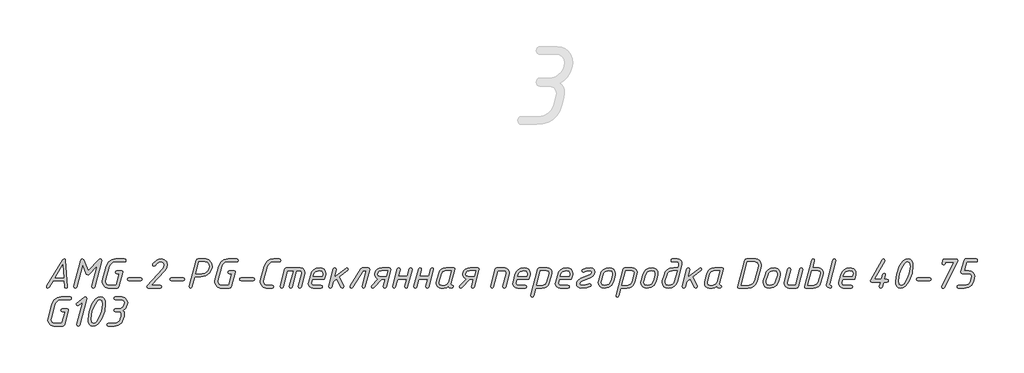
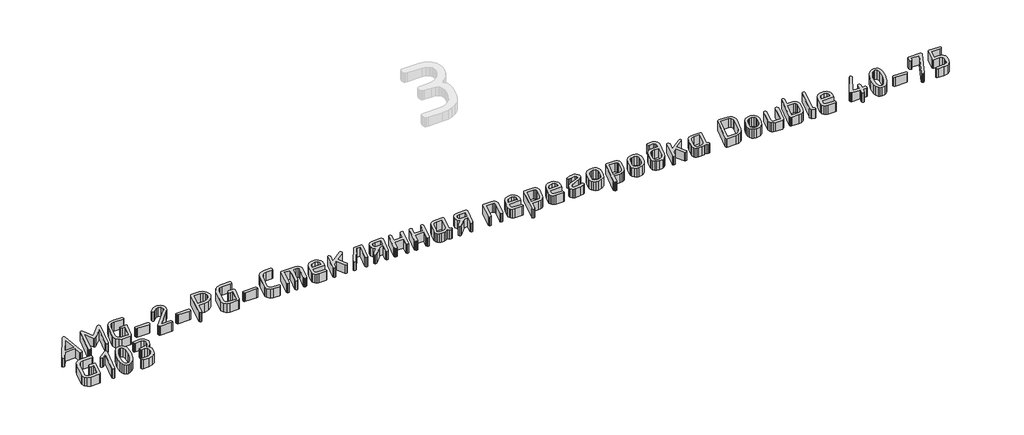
# One storey, part 21 of 22: 1 proxy.
"""IFC4 building model written with IfcOpenShell, lengths in millimetres."""

from ifc_helpers import new_model, si_unit, origin, origin_with_axes, place, context, project, spatial, polyline, outline, extrude, element, save

model = new_model("IFC4")

# Units and contexts
model_context = context("Model", 3, world=origin())
ifc_project = project(units=[si_unit("LENGTHUNIT", "METRE", prefix="MILLI")], contexts=[model_context])

# Site, building, storey
site = spatial("IfcSite", under=ifc_project)
building = spatial("IfcBuilding", under=site)
storey = spatial("IfcBuildingStorey", under=building, Name="Уровень 1", Elevation=0.0)

# Proxy
placement = place(None, origin())
element("IfcBuildingElementProxy", 1, Name="30", ObjectType="30", at=placement, inside=storey, context=model_context, shape_type="SweptSolid", body=[
    extrude(outline(polyline([(-27254.4219264, 304.7886375), (-27310.5539274, 304.7886375), (-27331.3287604, 270.1505985), (-27337.7210168, 266.4350995), (-27343.0345798, 268.6723892), (-27345.1919664, 273.9859523), (-27344.0733215, 277.9811125), (-27261.4534084, 413.7366563), (-27254.9812489, 417.2923489), (-27249.6277342, 415.5544542), (-27247.4703477, 410.3407702), (-27237.0429795, 273.7462427), (-27238.9406806, 268.2628853), (-27244.6337839, 266.4350995), (-27249.9573349, 268.2029579), (-27252.0248303, 273.506533), (-27254.4219264, 304.7886375)]), holes=[polyline([(-27255.5405713, 320.1300527), (-27260.6543764, 386.6095185), (-27301.3251073, 320.1300527), (-27255.5405713, 320.1300527)])]), origin_with_axes(), (0.0, 0.0, 1.0), 50.0),
    extrude(outline(polyline([(-27159.3371135, 386.6494701), (-27189.9000891, 272.0283238), (-27192.4370158, 267.8334055), (-27197.0913775, 266.4350995), (-27202.3649889, 268.6723892), (-27204.6821818, 273.7462427), (-27204.362569, 276.023484), (-27168.0865143, 411.6991246), (-27165.5595755, 415.8940428), (-27160.9351776, 417.2923489), (-27153.9036956, 412.7378663), (-27129.8128796, 355.4472689), (-27073.0816046, 414.8952528), (-27067.7680415, 417.2923489), (-27062.1348656, 415.4345994), (-27060.2571403, 409.8613509), (-27060.49685, 407.7039644), (-27096.732953, 272.0283238), (-27099.3198193, 267.8334055), (-27103.8842898, 266.4350995), (-27109.1778771, 268.6723892), (-27111.5150458, 273.7462427), (-27111.1554814, 276.023484), (-27082.5101827, 383.3334871), (-27127.0961706, 336.8298223), (-27132.4097337, 334.5925326), (-27139.2414576, 339.1070636), (-27159.3371135, 386.6494701)])), origin_with_axes(), (0.0, 0.0, 1.0), 50.0),
    extrude(outline(polyline([(-26942.6795754, 401.9509337), (-26991.3406268, 401.9509337), (-27004.0052846, 399.1643095), (-27014.512556, 390.8044367), (-27020.5452479, 379.4182301), (-27040.7607585, 304.3092182), (-27041.5597906, 298.7159939), (-27036.3860581, 286.4508521), (-27023.5016664, 281.7765147), (-26984.6287576, 281.7765147), (-26968.4883104, 340.5852729), (-26982.2316615, 340.5852729), (-26987.8648374, 342.5029498), (-26989.7425627, 348.2559805), (-26987.8648374, 354.0090112), (-26982.2316615, 355.9266881), (-26956.782491, 355.9266881), (-26952.3478631, 354.5683337), (-26950.8696539, 350.4932702), (-26950.9895087, 348.4557385), (-26971.1251161, 273.9060491), (-26974.6108934, 268.3028369), (-26980.9931618, 266.4350995), (-27027.5767298, 266.4350995), (-27041.7995002, 270.5800782), (-27052.8261424, 283.0150143), (-27057.0210606, 297.8770103), (-27056.2220285, 304.1494118), (-27036.1263727, 379.5780366), (-27026.1784238, 400.3528696), (-27009.5186057, 413.0574791), (-26987.2256117, 417.2923489), (-26942.6795754, 417.2923489), (-26937.0763632, 415.374672), (-26935.2086258, 409.6216413), (-26937.0763632, 403.8686106), (-26942.6795754, 401.9509337)])), origin_with_axes(), (0.0, 0.0, 1.0), 50.0),
    extrude(outline(polyline([(-26858.9809691, 304.7886375), (-26921.0657587, 304.7886375), (-26926.6689709, 306.7063144), (-26928.5367083, 312.4593451), (-26926.6689709, 318.2123758), (-26921.0657587, 320.1300527), (-26858.9809691, 320.1300527), (-26853.3777569, 318.2123758), (-26851.5100195, 312.4593451), (-26853.3777569, 306.7063144), (-26858.9809691, 304.7886375)])), origin_with_axes(), (0.0, 0.0, 1.0), 50.0),
    extrude(outline(polyline([(-26784.9106988, 382.1748907), (-26790.4639715, 379.4581817), (-26795.7575588, 381.7354231), (-26797.9748727, 386.9690829), (-26796.137099, 391.8431784), (-26776.8404752, 410.4206734), (-26764.8749704, 415.57443), (-26751.2714499, 417.2923489), (-26736.3295507, 413.6467652), (-26725.4627149, 402.7100142), (-26721.2677967, 387.5284054), (-26724.6936466, 372.2569055), (-26734.9711962, 357.2850426), (-26803.5281454, 281.7765147), (-26758.5426415, 281.7765147), (-26752.9094656, 279.8588378), (-26751.0317403, 274.1058071), (-26752.9094656, 268.3527764), (-26758.5426415, 266.4350995), (-26820.5874795, 266.4350995), (-26826.1906917, 268.3128248), (-26828.0584291, 273.9460007), (-26826.1407522, 279.0997573), (-26745.7980804, 367.5126527), (-26738.906429, 377.4306379), (-26736.6092119, 386.8891797), (-26741.2935373, 398.1854952), (-26755.3465133, 401.9509337), (-26764.8050551, 399.3640675), (-26775.9215884, 391.6034688), (-26784.9106988, 382.1748907)])), origin_with_axes(), (0.0, 0.0, 1.0), 50.0),
    extrude(outline(polyline([(-26639.0873512, 304.7886375), (-26701.1721409, 304.7886375), (-26706.7753531, 306.7063144), (-26708.6430905, 312.4593451), (-26706.7753531, 318.2123758), (-26701.1721409, 320.1300527), (-26639.0873512, 320.1300527), (-26633.4841391, 318.2123758), (-26631.6164017, 312.4593451), (-26633.4841391, 306.7063144), (-26639.0873512, 304.7886375)])), origin_with_axes(), (0.0, 0.0, 1.0), 50.0),
    extrude(outline(polyline([(-26548.4771177, 325.2438577), (-26579.5195126, 325.2438577), (-26594.1417989, 271.908469), (-26596.738653, 267.8034418), (-26601.3330873, 266.4350995), (-26606.6066988, 268.6723892), (-26608.9238917, 273.7462427), (-26608.6042789, 276.023484), (-26572.9274982, 409.7414961), (-26569.4716846, 415.4046357), (-26563.0195009, 417.2923489), (-26524.1465921, 417.2923489), (-26507.0173427, 412.268435), (-26493.8233261, 397.1966931), (-26488.8293758, 378.8189561), (-26489.7083111, 371.2681033), (-26501.7437312, 346.6379406), (-26522.1090604, 330.837082), (-26548.4771177, 325.2438577)]), holes=[polyline([(-26544.4020543, 340.5852729), (-26527.9519822, 344.4805541), (-26513.5993691, 356.1663977), (-26506.6178267, 367.2230036), (-26504.2906458, 378.8189561), (-26507.2370765, 390.6346424), (-26516.0763685, 398.914612), (-26528.3814619, 401.9509337), (-26559.3839051, 401.9509337), (-26575.5243523, 340.5852729), (-26544.4020543, 340.5852729)])]), origin_with_axes(), (0.0, 0.0, 1.0), 50.0),
    extrude(outline(polyline([(-26362.2627005, 401.9509337), (-26410.9237518, 401.9509337), (-26423.5884096, 399.1643095), (-26434.095681, 390.8044367), (-26440.1283729, 379.4182301), (-26460.3438836, 304.3092182), (-26461.1429156, 298.7159939), (-26455.9691831, 286.4508521), (-26443.0847915, 281.7765147), (-26404.2118826, 281.7765147), (-26388.0714354, 340.5852729), (-26401.8147865, 340.5852729), (-26407.4479624, 342.5029498), (-26409.3256877, 348.2559805), (-26407.4479624, 354.0090112), (-26401.8147865, 355.9266881), (-26376.365616, 355.9266881), (-26371.9309882, 354.5683337), (-26370.4527789, 350.4932702), (-26370.5726337, 348.4557385), (-26390.7082411, 273.9060491), (-26394.1940184, 268.3028369), (-26400.5762868, 266.4350995), (-26447.1598549, 266.4350995), (-26461.3826252, 270.5800782), (-26472.4092674, 283.0150143), (-26476.6041856, 297.8770103), (-26475.8051536, 304.1494118), (-26455.7094977, 379.5780366), (-26445.7615488, 400.3528696), (-26429.1017307, 413.0574791), (-26406.8087368, 417.2923489), (-26362.2627005, 417.2923489), (-26356.6594883, 415.374672), (-26354.7917509, 409.6216413), (-26356.6594883, 403.8686106), (-26362.2627005, 401.9509337)])), origin_with_axes(), (0.0, 0.0, 1.0), 50.0),
    extrude(outline(polyline([(-26278.5640941, 304.7886375), (-26340.6488837, 304.7886375), (-26346.2520959, 306.7063144), (-26348.1198333, 312.4593451), (-26346.2520959, 318.2123758), (-26340.6488837, 320.1300527), (-26278.5640941, 320.1300527), (-26272.9608819, 318.2123758), (-26271.0931445, 312.4593451), (-26272.9608819, 306.7063144), (-26278.5640941, 304.7886375)])), origin_with_axes(), (0.0, 0.0, 1.0), 50.0),
    extrude(outline(polyline([(-26114.0433968, 365.5949758), (-26111.4864942, 369.8498214), (-26106.7722052, 371.2681033), (-26034.8193698, 371.2681033), (-26022.5941796, 368.2617453), (-26014.12444, 359.2426711), (-26011.0881182, 347.3370937), (-26011.8871502, 341.3044018), (-26030.5045968, 271.9883722), (-26033.091463, 267.8234176), (-26037.6559336, 266.4350995), (-26042.9495209, 268.6324376), (-26045.2866896, 273.6663394), (-26044.9271252, 275.9435808), (-26027.4283234, 341.0247405), (-26026.6292914, 346.5380616), (-26029.6756011, 353.5795315), (-26038.81453, 355.9266881), (-26054.3557032, 355.9266881), (-26077.0881648, 271.9883722), (-26079.6750311, 267.8234176), (-26084.2395016, 266.4350995), (-26089.5330889, 268.6324376), (-26091.8702576, 273.6663394), (-26091.5506448, 275.9435808), (-26069.8169733, 355.9266881), (-26100.9792229, 355.9266881), (-26123.6717329, 271.9883722), (-26126.268587, 267.8234176), (-26130.8630212, 266.4350995), (-26136.1366327, 268.6524134), (-26138.4538256, 273.706291), (-26138.1342128, 275.9835324), (-26114.0433968, 365.5949758)])), origin_with_axes(), (0.0, 0.0, 1.0), 50.0),
    extrude(outline(polyline([(-26178.7649921, 281.7765147), (-26173.1318162, 279.8588378), (-26171.2540909, 274.1058071), (-26173.1318162, 268.3527764), (-26178.7649921, 266.4350995), (-26211.804967, 266.4350995), (-26226.1575801, 270.6100419), (-26237.1742344, 283.1348691), (-26241.2492978, 298.0767683), (-26240.4502657, 304.1494118), (-26220.4744647, 379.5780366), (-26213.6527286, 396.0780482), (-26203.2153726, 407.8637708), (-26189.1623966, 414.9352044), (-26171.4938005, 417.2923489), (-26142.6087922, 417.2923489), (-26136.9756163, 415.374672), (-26135.097891, 409.6216413), (-26136.9756163, 403.8686106), (-26142.6087922, 401.9509337), (-26175.568864, 401.9509337), (-26188.113667, 399.1643095), (-26198.7407932, 390.8044367), (-26204.8933399, 379.4182301), (-26224.9889957, 304.3092182), (-26225.7880278, 298.7159939), (-26220.6142953, 286.4508521), (-26207.7299036, 281.7765147), (-26178.7649921, 281.7765147)])), origin_with_axes(), (0.0, 0.0, 1.0), 50.0),
    extrude(outline(polyline([(-25904.2974858, 334.5126294), (-25910.3301778, 312.4593451), (-25972.3750158, 312.4593451), (-25976.370176, 297.1179299), (-25977.169208, 291.5247056), (-25974.1228984, 284.2135624), (-25964.9839694, 281.7765147), (-25928.1885439, 281.7765147), (-25922.555368, 279.8588378), (-25920.6776427, 274.1058071), (-25922.555368, 268.3527764), (-25928.1885439, 266.4350995), (-25968.9791296, 266.4350995), (-25978.0381554, 268.19297), (-25985.7188509, 273.4665814), (-25990.9624987, 281.1772406), (-25992.7103812, 290.2462543), (-25991.9113492, 296.398801), (-25981.9234487, 333.8334522), (-25975.066755, 351.0725685), (-25965.2037032, 362.5986057), (-25951.4553582, 369.1007289), (-25932.9427845, 371.2681033), (-25921.4217413, 369.195614), (-25911.8683144, 362.9781459), (-25905.4411005, 353.7243561), (-25903.2986958, 342.5429014), (-25904.2974858, 334.5126294)]), holes=[polyline([(-25919.8786107, 334.8322422), (-25918.640111, 342.6228046), (-25923.2345452, 352.6007173), (-25937.0178479, 355.9266881), (-25955.9549073, 350.6530766), (-25962.217321, 344.0610623), (-25966.3423239, 334.8322422), (-25968.4198072, 327.8007603), (-25921.7962876, 327.8007603), (-25919.8786107, 334.8322422)])]), origin_with_axes(), (0.0, 0.0, 1.0), 50.0),
    extrude(outline(polyline([(-25845.7284372, 314.7365864), (-25865.824093, 299.2753164), (-25873.0952846, 271.9883722), (-25875.6322114, 267.8234176), (-25880.286573, 266.4350995), (-25885.5601845, 268.6524134), (-25887.8773774, 273.706291), (-25887.5577646, 275.9835324), (-25863.4669485, 365.7148306), (-25860.9400097, 369.8797851), (-25856.3156118, 371.2681033), (-25850.6824359, 369.4203417), (-25848.8047106, 363.8770569), (-25849.0044686, 361.7196704), (-25859.3519335, 323.0465196), (-25798.66545, 368.7112008), (-25794.1509189, 371.2681033), (-25788.8972832, 368.990862), (-25786.5201629, 363.8770569), (-25789.5964363, 357.7644618), (-25833.5831502, 324.0852613), (-25811.410011, 277.222032), (-25810.610979, 274.0259039), (-25812.8882203, 268.7123408), (-25818.241735, 266.4350995), (-25824.9136525, 270.7498725), (-25845.7284372, 314.7365864)])), origin_with_axes(), (0.0, 0.0, 1.0), 50.0),
    extrude(outline(polyline([(-25683.9644004, 371.2681033), (-25678.3312245, 369.4203417), (-25676.4534992, 363.8770569), (-25676.6932088, 361.7196704), (-25700.9038797, 271.9883722), (-25703.4907459, 267.8234176), (-25708.0552164, 266.4350995), (-25713.3488037, 268.6324376), (-25715.6859724, 273.6663394), (-25715.326408, 275.9435808), (-25693.7525429, 355.9266881), (-25710.7719254, 355.9266881), (-25763.8676045, 269.9508405), (-25769.7404901, 266.4350995), (-25775.673303, 268.2229337), (-25777.7308105, 273.5864362), (-25776.572214, 277.7813545), (-25721.4789547, 367.6325075), (-25714.9668436, 371.2681033), (-25683.9644004, 371.2681033)])), origin_with_axes(), (0.0, 0.0, 1.0), 50.0),
    extrude(outline(polyline([(-25614.129, 312.4593451), (-25655.0394405, 268.7522924), (-25660.3929552, 266.4350995), (-25665.9861795, 268.292849), (-25667.9837596, 273.8660975), (-25665.8263731, 279.4593217), (-25634.0248978, 313.4980867), (-25646.2301122, 321.9678264), (-25650.8445223, 335.8709839), (-25650.165345, 341.8637242), (-25644.6220602, 355.5022024), (-25636.8614615, 364.5362584), (-25625.97465, 369.5851421), (-25611.0527266, 371.2681033), (-25574.2573011, 371.2681033), (-25568.9637138, 369.1107168), (-25566.6265451, 363.9969117), (-25566.9861095, 361.7196704), (-25591.1568288, 271.9883722), (-25593.7536829, 267.8234176), (-25598.3481171, 266.4350995), (-25603.9513293, 268.3228127), (-25605.8190667, 273.9859523), (-25605.6193087, 276.1832904), (-25596.0708758, 312.4593451), (-25614.129, 312.4593451)]), holes=[polyline([(-25623.1181104, 327.8007603), (-25592.0757156, 327.8007603), (-25583.8856372, 355.9266881), (-25615.0478868, 355.9266881), (-25627.5427504, 352.4109471), (-25634.8239298, 341.8637242), (-25635.5031071, 336.7499191), (-25632.4068579, 330.03805), (-25623.1181104, 327.8007603)])]), origin_with_axes(), (0.0, 0.0, 1.0), 50.0),
    extrude(outline(polyline([(-25486.1240669, 312.4593451), (-25532.7076349, 312.4593451), (-25543.2548579, 272.1481786), (-25545.8217483, 267.8633692), (-25550.5660011, 266.4350995), (-25555.8196367, 268.6524134), (-25558.1568055, 273.706291), (-25557.8371926, 275.9835324), (-25533.7463766, 365.7148306), (-25531.2094499, 369.8797851), (-25526.5550882, 371.2681033), (-25521.2415251, 369.19062), (-25518.9642838, 364.1167665), (-25519.1640418, 362.0392832), (-25528.7124747, 327.8007603), (-25482.0090519, 327.8007603), (-25471.4618289, 365.874637), (-25468.9348901, 369.9197368), (-25464.3104922, 371.2681033), (-25458.6773163, 369.4203417), (-25456.799591, 363.8770569), (-25457.0393006, 361.7196704), (-25481.1301167, 271.9883722), (-25483.6570555, 267.8234176), (-25488.2814534, 266.4350995), (-25493.5550649, 268.692365), (-25495.8722578, 273.8660975), (-25495.552645, 276.1832904), (-25486.1240669, 312.4593451)])), origin_with_axes(), (0.0, 0.0, 1.0), 50.0),
    extrude(outline(polyline([(-25376.177258, 312.4593451), (-25422.760826, 312.4593451), (-25433.308049, 272.1481786), (-25435.8749394, 267.8633692), (-25440.6191921, 266.4350995), (-25445.8728278, 268.6524134), (-25448.2099965, 273.706291), (-25447.8903837, 275.9835324), (-25423.7995677, 365.7148306), (-25421.2626409, 369.8797851), (-25416.6082793, 371.2681033), (-25411.2947162, 369.19062), (-25409.0174749, 364.1167665), (-25409.2172329, 362.0392832), (-25418.7656658, 327.8007603), (-25372.062243, 327.8007603), (-25361.51502, 365.874637), (-25358.9880812, 369.9197368), (-25354.3636833, 371.2681033), (-25348.7305074, 369.4203417), (-25346.8527821, 363.8770569), (-25347.0924917, 361.7196704), (-25371.1833077, 271.9883722), (-25373.7102466, 267.8234176), (-25378.3346445, 266.4350995), (-25383.608256, 268.692365), (-25385.9254489, 273.8660975), (-25385.6058361, 276.1832904), (-25376.177258, 312.4593451)])), origin_with_axes(), (0.0, 0.0, 1.0), 50.0),
    extrude(outline(polyline([(-25309.2982761, 266.4350995), (-25318.3573019, 268.1630063), (-25326.0379974, 273.3467266), (-25331.2816452, 280.9774826), (-25333.0295278, 290.0464963), (-25332.2304957, 296.398801), (-25320.2050635, 341.3044018), (-25314.6418029, 355.2075593), (-25306.5815672, 364.476331), (-25295.7147314, 369.5701602), (-25281.0924451, 371.2681033), (-25242.2594878, 371.2681033), (-25237.3654166, 369.1306926), (-25236.4265539, 363.7971537), (-25256.6820162, 289.2474643), (-25257.001629, 287.2099326), (-25255.5034439, 283.1348691), (-25251.0088887, 281.7765147), (-25245.8051925, 279.8588378), (-25245.2159064, 274.1058071), (-25248.5518652, 268.3527764), (-25254.9640973, 266.4350995), (-25265.0219131, 268.6124618), (-25270.4253673, 275.1445487), (-25279.5742842, 268.6124618), (-25293.8370061, 266.4350995), (-25309.2982761, 266.4350995)]), holes=[polyline([(-25305.3031159, 281.7765147), (-25289.7619427, 281.7765147), (-25277.7564863, 286.3309973), (-25270.0658029, 296.598559), (-25254.0452104, 355.9266881), (-25285.0876053, 355.9266881), (-25297.8321663, 352.221177), (-25304.7437935, 341.1046438), (-25316.6893225, 296.598559), (-25317.4883545, 291.3249476), (-25314.4420449, 284.1636229), (-25305.3031159, 281.7765147)])]), origin_with_axes(), (0.0, 0.0, 1.0), 50.0),
    extrude(outline(polyline([(-25159.0003491, 312.4593451), (-25199.9107896, 268.7522924), (-25205.2643043, 266.4350995), (-25210.8575286, 268.292849), (-25212.8551087, 273.8660975), (-25210.6977222, 279.4593217), (-25178.8962469, 313.4980867), (-25191.1014614, 321.9678264), (-25195.7158714, 335.8709839), (-25195.0366942, 341.8637242), (-25189.4934094, 355.5022024), (-25181.7328107, 364.5362584), (-25170.8459991, 369.5851421), (-25155.9240757, 371.2681033), (-25119.1286502, 371.2681033), (-25113.835063, 369.1107168), (-25111.4978942, 363.9969117), (-25111.8574587, 361.7196704), (-25136.0281779, 271.9883722), (-25138.625032, 267.8234176), (-25143.2194663, 266.4350995), (-25148.8226785, 268.3228127), (-25150.6904159, 273.9859523), (-25150.4906579, 276.1832904), (-25140.942225, 312.4593451), (-25159.0003491, 312.4593451)]), holes=[polyline([(-25167.9894596, 327.8007603), (-25136.9470648, 327.8007603), (-25128.7569863, 355.9266881), (-25159.919236, 355.9266881), (-25172.4140995, 352.4109471), (-25179.695279, 341.8637242), (-25180.3744562, 336.7499191), (-25177.2782071, 330.03805), (-25167.9894596, 327.8007603)])]), origin_with_axes(), (0.0, 0.0, 1.0), 50.0),
    extrude(outline(polyline([(-25027.3598203, 365.5949758), (-25024.8029177, 369.8498214), (-25020.0886287, 371.2681033), (-24979.1781882, 371.2681033), (-24969.8145314, 369.5801481), (-24962.1787815, 364.5162826), (-24957.0999341, 356.8755387), (-24955.4069849, 347.4569485), (-24956.206017, 341.3044018), (-24974.8634151, 271.9883722), (-24977.4303056, 267.8234176), (-24982.0147519, 266.4350995), (-24987.2883634, 268.6324376), (-24989.6055563, 273.6663394), (-24989.2859435, 275.9435808), (-24971.7871418, 341.0247405), (-24970.9881097, 346.4182068), (-24974.0244315, 353.5495678), (-24983.1333968, 355.9266881), (-25014.2956464, 355.9266881), (-25036.9881564, 271.9883722), (-25039.5850105, 267.8234176), (-25044.1794447, 266.4350995), (-25049.4530562, 268.6524134), (-25051.7702491, 273.706291), (-25051.4506363, 275.9835324), (-25027.3598203, 365.5949758)])), origin_with_axes(), (0.0, 0.0, 1.0), 50.0),
    extrude(outline(polyline([(-24848.2967398, 334.5126294), (-24854.3294317, 312.4593451), (-24916.3742697, 312.4593451), (-24920.3694299, 297.1179299), (-24921.1684619, 291.5247056), (-24918.1221523, 284.2135624), (-24908.9832233, 281.7765147), (-24872.1877978, 281.7765147), (-24866.5546219, 279.8588378), (-24864.6768966, 274.1058071), (-24866.5546219, 268.3527764), (-24872.1877978, 266.4350995), (-24912.9783835, 266.4350995), (-24922.0374093, 268.19297), (-24929.7181048, 273.4665814), (-24934.9617526, 281.1772406), (-24936.7096351, 290.2462543), (-24935.9106031, 296.398801), (-24925.9227026, 333.8334522), (-24919.0660089, 351.0725685), (-24909.2029571, 362.5986057), (-24895.4546121, 369.1007289), (-24876.9420384, 371.2681033), (-24865.4209952, 369.195614), (-24855.8675683, 362.9781459), (-24849.4403544, 353.7243561), (-24847.2979497, 342.5429014), (-24848.2967398, 334.5126294)]), holes=[polyline([(-24863.8778646, 334.8322422), (-24862.6393649, 342.6228046), (-24867.2337991, 352.6007173), (-24881.0171019, 355.9266881), (-24899.9541612, 350.6530766), (-24906.2165749, 344.0610623), (-24910.3415778, 334.8322422), (-24912.4190611, 327.8007603), (-24865.7955415, 327.8007603), (-24863.8778646, 334.8322422)])]), origin_with_axes(), (0.0, 0.0, 1.0), 50.0),
    extrude(outline(polyline([(-24807.4662024, 365.5550242), (-24804.9092999, 369.8398335), (-24800.1950109, 371.2681033), (-24759.2845703, 371.2681033), (-24750.1206716, 369.5252147), (-24742.44497, 364.2965488), (-24737.2462678, 356.6008714), (-24735.5133671, 347.4569485), (-24736.3123991, 341.3044018), (-24748.377783, 296.398801), (-24753.9260617, 282.5655588), (-24761.9413519, 273.3467266), (-24772.972988, 268.1630063), (-24787.5703046, 266.4350995), (-24818.5727478, 266.4350995), (-24829.1599224, 226.123933), (-24831.6868612, 221.8391237), (-24836.3112591, 220.4108539), (-24841.6048464, 222.6481436), (-24843.9420151, 227.7219971), (-24843.5824507, 229.9992384), (-24807.4662024, 365.5550242)]), holes=[polyline([(-24794.4020286, 355.9266881), (-24814.6175392, 281.7765147), (-24783.4952412, 281.7765147), (-24770.7207164, 285.4820258), (-24763.7991014, 296.598559), (-24751.8935239, 341.1046438), (-24751.0944919, 346.49811), (-24754.1308137, 353.5695436), (-24763.2397789, 355.9266881), (-24794.4020286, 355.9266881)])]), origin_with_axes(), (0.0, 0.0, 1.0), 50.0),
    extrude(outline(polyline([(-24628.4031219, 334.5126294), (-24634.4358138, 312.4593451), (-24696.4806519, 312.4593451), (-24700.4758121, 297.1179299), (-24701.2748441, 291.5247056), (-24698.2285345, 284.2135624), (-24689.0896055, 281.7765147), (-24652.29418, 281.7765147), (-24646.6610041, 279.8588378), (-24644.7832788, 274.1058071), (-24646.6610041, 268.3527764), (-24652.29418, 266.4350995), (-24693.0847657, 266.4350995), (-24702.1437915, 268.19297), (-24709.824487, 273.4665814), (-24715.0681347, 281.1772406), (-24716.8160173, 290.2462543), (-24716.0169853, 296.398801), (-24706.0290848, 333.8334522), (-24699.1723911, 351.0725685), (-24689.3093393, 362.5986057), (-24675.5609942, 369.1007289), (-24657.0484206, 371.2681033), (-24645.5273774, 369.195614), (-24635.9739505, 362.9781459), (-24629.5467365, 353.7243561), (-24627.4043319, 342.5429014), (-24628.4031219, 334.5126294)]), holes=[polyline([(-24643.9842467, 334.8322422), (-24642.7457471, 342.6228046), (-24647.3401813, 352.6007173), (-24661.123484, 355.9266881), (-24680.0605434, 350.6530766), (-24686.322957, 344.0610623), (-24690.4479599, 334.8322422), (-24692.5254433, 327.8007603), (-24645.9019236, 327.8007603), (-24643.9842467, 334.8322422)])]), origin_with_axes(), (0.0, 0.0, 1.0), 50.0),
    extrude(outline(polyline([(-24555.8510125, 269.3515664), (-24586.9733106, 266.4350995), (-24594.9037036, 268.0331636), (-24601.5955969, 272.8273558), (-24606.1500796, 279.738983), (-24607.6682404, 287.6893518), (-24605.9702974, 296.8482566), (-24600.8764681, 305.6276211), (-24585.2953433, 317.2934889), (-24539.9502749, 335.0320002), (-24532.6990591, 340.2257085), (-24530.2819872, 348.3758353), (-24532.5891922, 354.0389749), (-24539.5108073, 355.9266881), (-24557.4191129, 354.3086482), (-24570.9527181, 349.4545286), (-24574.5883139, 348.4157869), (-24579.8819012, 350.6930283), (-24582.0992151, 355.9266881), (-24578.3437645, 362.5586541), (-24560.3056162, 369.090741), (-24535.5156471, 371.2681033), (-24525.4078918, 368.5014549), (-24517.7771358, 360.2015095), (-24514.8207172, 349.6942382), (-24517.2677528, 339.176979), (-24524.6088597, 328.8794535), (-24536.9938564, 320.6494235), (-24582.3389247, 303.030767), (-24589.6500679, 297.7471676), (-24592.0871156, 289.5670771), (-24589.8198622, 283.7241553), (-24583.018102, 281.7765147), (-24561.424261, 283.5144094), (-24541.8679518, 288.7280934), (-24539.1512429, 289.2874159), (-24533.518067, 287.4096906), (-24531.6403417, 281.7765147), (-24534.0873773, 276.522879), (-24541.4284842, 272.5876462), (-24555.8510125, 269.3515664)])), origin_with_axes(), (0.0, 0.0, 1.0), 50.0),
    extrude(outline(polyline([(-24494.0858357, 303.8697506), (-24486.1354669, 333.8334522), (-24479.2787732, 351.0725685), (-24469.4157215, 362.5986057), (-24455.6673764, 369.1007289), (-24437.1548028, 371.2681033), (-24425.6337595, 369.1556624), (-24416.0803327, 362.8183395), (-24409.6531187, 353.3847674), (-24407.510714, 341.983579), (-24408.5095041, 333.8334522), (-24416.4598729, 303.8697506), (-24426.3678702, 282.3358371), (-24441.9889466, 270.4102839), (-24465.440537, 266.4350995), (-24476.9665742, 268.5475404), (-24486.5349829, 274.8848633), (-24492.9771788, 284.3184354), (-24495.1245774, 295.7196238), (-24494.0858357, 303.8697506)]), holes=[polyline([(-24432.0409977, 304.029557), (-24424.0906289, 333.6736458), (-24422.8521292, 341.983579), (-24427.4465635, 352.4409108), (-24441.2298662, 355.9266881), (-24451.8120468, 354.535873), (-24460.226853, 350.3634275), (-24466.4742848, 343.4093518), (-24470.5543421, 333.6736458), (-24478.6245657, 304.029557), (-24479.903017, 295.7196238), (-24475.2985949, 285.262292), (-24461.4853284, 281.7765147), (-24450.8656932, 283.1673298), (-24442.4184264, 287.3397753), (-24436.1435279, 294.293851), (-24432.0409977, 304.029557)])]), origin_with_axes(), (0.0, 0.0, 1.0), 50.0),
    extrude(outline(polyline([(-24367.6789668, 365.5550242), (-24365.1220642, 369.8398335), (-24360.4077752, 371.2681033), (-24319.4973347, 371.2681033), (-24310.3334359, 369.5252147), (-24302.6577344, 364.2965488), (-24297.4590322, 356.6008714), (-24295.7261314, 347.4569485), (-24296.5251635, 341.3044018), (-24308.5905473, 296.398801), (-24314.138826, 282.5655588), (-24322.1541162, 273.3467266), (-24333.1857523, 268.1630063), (-24347.7830689, 266.4350995), (-24378.7855121, 266.4350995), (-24389.3726867, 226.123933), (-24391.8996255, 221.8391237), (-24396.5240235, 220.4108539), (-24401.8176107, 222.6481436), (-24404.1547795, 227.7219971), (-24403.795215, 229.9992384), (-24367.6789668, 365.5550242)]), holes=[polyline([(-24354.6147929, 355.9266881), (-24374.8303035, 281.7765147), (-24343.7080055, 281.7765147), (-24330.9334808, 285.4820258), (-24324.0118657, 296.598559), (-24312.1062883, 341.1046438), (-24311.3072562, 346.49811), (-24314.343578, 353.5695436), (-24323.4525433, 355.9266881), (-24354.6147929, 355.9266881)])]), origin_with_axes(), (0.0, 0.0, 1.0), 50.0),
    extrude(outline(polyline([(-24274.1922179, 303.8697506), (-24266.2418491, 333.8334522), (-24259.3851554, 351.0725685), (-24249.5221036, 362.5986057), (-24235.7737586, 369.1007289), (-24217.2611849, 371.2681033), (-24205.7401417, 369.1556624), (-24196.1867149, 362.8183395), (-24189.7595009, 353.3847674), (-24187.6170962, 341.983579), (-24188.6158863, 333.8334522), (-24196.5662551, 303.8697506), (-24206.4742524, 282.3358371), (-24222.0953288, 270.4102839), (-24245.5469192, 266.4350995), (-24257.0729564, 268.5475404), (-24266.6413651, 274.8848633), (-24273.0835609, 284.3184354), (-24275.2309596, 295.7196238), (-24274.1922179, 303.8697506)]), holes=[polyline([(-24212.1473799, 304.029557), (-24204.1970111, 333.6736458), (-24202.9585114, 341.983579), (-24207.5529456, 352.4409108), (-24221.3362484, 355.9266881), (-24231.918429, 354.535873), (-24240.3332351, 350.3634275), (-24246.5806669, 343.4093518), (-24250.6607243, 333.6736458), (-24258.7309479, 304.029557), (-24260.0093992, 295.7196238), (-24255.404977, 285.262292), (-24241.5917106, 281.7765147), (-24230.9720754, 283.1673298), (-24222.5248085, 287.3397753), (-24216.24991, 294.293851), (-24212.1473799, 304.029557)])]), origin_with_axes(), (0.0, 0.0, 1.0), 50.0),
    extrude(outline(polyline([(-24064.6061134, 387.1288893), (-24086.6194462, 304.1494118), (-24093.6059826, 286.7255194), (-24103.6188528, 275.1245729), (-24117.3771858, 268.6074678), (-24135.6001103, 266.4350995), (-24147.1261475, 268.5475404), (-24156.6945562, 274.8848633), (-24163.136752, 284.3184354), (-24165.2841506, 295.7196238), (-24164.245409, 303.8697506), (-24156.2950402, 333.8334522), (-24149.4383465, 351.0725685), (-24139.5752947, 362.5986057), (-24125.8269496, 369.1007289), (-24107.314376, 371.2681033), (-24084.022592, 371.2681033), (-24080.0274318, 386.6095185), (-24079.2683514, 392.2027428), (-24082.3346368, 399.513886), (-24091.5334932, 401.9509337), (-24112.7877455, 401.9509337), (-24118.3909577, 403.8686106), (-24120.2586951, 409.6216413), (-24118.3909577, 415.374672), (-24112.7877455, 417.2923489), (-24087.538333, 417.2923489), (-24078.404398, 415.5344784), (-24070.7386843, 410.2608669), (-24065.5399821, 402.5002682), (-24063.8070814, 393.2814361), (-24064.6061134, 387.1288893)]), holes=[polyline([(-24102.200571, 304.029557), (-24088.0976554, 355.9266881), (-24111.3894394, 355.9266881), (-24121.97162, 354.535873), (-24130.3864262, 350.3634275), (-24136.633858, 343.4093518), (-24140.7139154, 333.6736458), (-24148.784139, 304.029557), (-24150.0625903, 295.7196238), (-24145.4581681, 285.262292), (-24131.6449017, 281.7765147), (-24121.0252665, 283.1673298), (-24112.5779996, 287.3397753), (-24106.3031011, 294.293851), (-24102.200571, 304.029557)])]), origin_with_axes(), (0.0, 0.0, 1.0), 50.0),
    extrude(outline(polyline([(-24020.1000287, 314.7365864), (-24040.1956845, 299.2753164), (-24047.4668761, 271.9883722), (-24050.0038029, 267.8234176), (-24054.6581645, 266.4350995), (-24059.931776, 268.6524134), (-24062.2489689, 273.706291), (-24061.9293561, 275.9835324), (-24037.83854, 365.7148306), (-24035.3116012, 369.8797851), (-24030.6872032, 371.2681033), (-24025.0540274, 369.4203417), (-24023.1763021, 363.8770569), (-24023.3760601, 361.7196704), (-24033.723525, 323.0465196), (-23973.0370415, 368.7112008), (-23968.5225104, 371.2681033), (-23963.2688747, 368.990862), (-23960.8917544, 363.8770569), (-23963.9680278, 357.7644618), (-24007.9547417, 324.0852613), (-23985.7816025, 277.222032), (-23984.9825705, 274.0259039), (-23987.2598118, 268.7123408), (-23992.6133265, 266.4350995), (-23999.285244, 270.7498725), (-24020.1000287, 314.7365864)])), origin_with_axes(), (0.0, 0.0, 1.0), 50.0),
    extrude(outline(polyline([(-23923.4571033, 266.4350995), (-23932.516129, 268.1630063), (-23940.1968245, 273.3467266), (-23945.4404723, 280.9774826), (-23947.1883549, 290.0464963), (-23946.3893229, 296.398801), (-23934.3638906, 341.3044018), (-23928.8006301, 355.2075593), (-23920.7403943, 364.476331), (-23909.8735586, 369.5701602), (-23895.2512722, 371.2681033), (-23856.418315, 371.2681033), (-23851.5242437, 369.1306926), (-23850.5853811, 363.7971537), (-23870.8408433, 289.2474643), (-23871.1604562, 287.2099326), (-23869.6622711, 283.1348691), (-23865.1677158, 281.7765147), (-23859.9640197, 279.8588378), (-23859.3747335, 274.1058071), (-23862.7106923, 268.3527764), (-23869.1229244, 266.4350995), (-23879.1807403, 268.6124618), (-23884.5841945, 275.1445487), (-23893.7331113, 268.6124618), (-23907.9958333, 266.4350995), (-23923.4571033, 266.4350995)]), holes=[polyline([(-23919.4619431, 281.7765147), (-23903.9207699, 281.7765147), (-23891.9153134, 286.3309973), (-23884.22463, 296.598559), (-23868.2040376, 355.9266881), (-23899.2464324, 355.9266881), (-23911.9909935, 352.221177), (-23918.9026206, 341.1046438), (-23930.8481497, 296.598559), (-23931.6471817, 291.3249476), (-23928.600872, 284.1636229), (-23919.4619431, 281.7765147)])]), origin_with_axes(), (0.0, 0.0, 1.0), 50.0),
    extrude(outline(polyline([(-23739.8794917, 409.7414961), (-23736.4236782, 415.4046357), (-23729.9714944, 417.2923489), (-23683.3879264, 417.2923489), (-23672.3762661, 414.8053617), (-23662.7529239, 407.3444), (-23656.0560366, 396.9170319), (-23653.8237409, 385.5308253), (-23654.6227729, 379.5780366), (-23674.7583803, 304.1494118), (-23681.6100801, 287.6494002), (-23692.057424, 275.8636776), (-23706.1004122, 268.792244), (-23723.7390445, 266.4350995), (-23770.3226125, 266.4350995), (-23775.3165628, 268.6723892), (-23776.1155948, 273.9859523), (-23739.8794917, 409.7414961)]), holes=[polyline([(-23726.3358986, 401.9509337), (-23758.4969383, 281.7765147), (-23719.7438843, 281.7765147), (-23710.3502638, 283.4145304), (-23701.5059779, 288.3285774), (-23694.4195625, 295.599769), (-23690.2995536, 304.3092182), (-23670.2038977, 379.4182301), (-23669.4048657, 385.0114544), (-23674.5785981, 397.2765963), (-23687.4629898, 401.9509337), (-23726.3358986, 401.9509337)])]), origin_with_axes(), (0.0, 0.0, 1.0), 50.0),
    extrude(outline(polyline([(-23642.6372923, 303.8697506), (-23634.6869235, 333.8334522), (-23627.8302298, 351.0725685), (-23617.967178, 362.5986057), (-23604.2188329, 369.1007289), (-23585.7062593, 371.2681033), (-23568.8566711, 366.783536), (-23558.3394119, 353.329834), (-23556.0621706, 341.983579), (-23557.0609606, 333.8334522), (-23565.0113294, 303.8697506), (-23574.9193268, 282.2858976), (-23590.5004516, 270.1905501), (-23613.9919936, 266.4350995), (-23625.5180308, 268.5475404), (-23635.0864395, 274.8848633), (-23641.5286353, 284.3184354), (-23643.6760339, 295.7196238), (-23642.6372923, 303.8697506)]), holes=[polyline([(-23580.5924543, 304.029557), (-23572.6420854, 333.6736458), (-23571.4035858, 341.983579), (-23575.99802, 352.4409108), (-23589.7813227, 355.9266881), (-23600.3635033, 354.535873), (-23608.7783095, 350.3634275), (-23615.0257413, 343.4093518), (-23619.1057987, 333.6736458), (-23627.1760223, 304.029557), (-23628.4544735, 295.7196238), (-23623.8500514, 285.262292), (-23610.036785, 281.7765147), (-23599.4171498, 283.1673298), (-23590.9698829, 287.3397753), (-23584.6949844, 294.293851), (-23580.5924543, 304.029557)])]), origin_with_axes(), (0.0, 0.0, 1.0), 50.0),
    extrude(outline(polyline([(-23454.0657305, 365.7148306), (-23451.5387916, 369.8797851), (-23446.9143937, 371.2681033), (-23441.2812178, 369.4203417), (-23439.4034925, 363.8770569), (-23439.6432021, 361.7196704), (-23463.3744538, 273.9060491), (-23466.8402552, 268.3028369), (-23473.1625963, 266.4350995), (-23511.9156503, 266.4350995), (-23520.9746761, 268.19297), (-23528.6553716, 273.4665814), (-23533.8990193, 281.1772406), (-23535.6469019, 290.2462543), (-23534.8478699, 296.398801), (-23516.3502781, 365.7148306), (-23513.7933756, 369.8797851), (-23509.0790865, 371.2681033), (-23503.4459106, 369.4303296), (-23501.5681853, 363.9170085), (-23501.7679434, 361.759622), (-23519.3066967, 296.6784622), (-23520.0657771, 291.284996), (-23517.0294553, 284.153635), (-23507.9204901, 281.7765147), (-23476.7981921, 281.7765147), (-23454.0657305, 365.7148306)])), origin_with_axes(), (0.0, 0.0, 1.0), 50.0),
    extrude(outline(polyline([(-23423.1032389, 266.4350995), (-23428.3568745, 268.7123408), (-23430.5741885, 273.9859523), (-23430.3744304, 275.9036292), (-23394.0983758, 411.6991246), (-23391.5714369, 415.8940428), (-23386.947039, 417.2923489), (-23381.3138631, 415.4046357), (-23379.4361378, 409.7414961), (-23379.6758474, 407.544158), (-23389.1044255, 371.2681033), (-23358.1019823, 371.2681033), (-23348.9380836, 369.5252147), (-23341.262382, 364.2965488), (-23336.0636798, 356.6008714), (-23334.330779, 347.4569485), (-23335.1298111, 341.3044018), (-23347.2750981, 296.398801), (-23352.8483466, 282.4407101), (-23360.6988364, 273.2468476), (-23371.585648, 268.1380365), (-23386.2678617, 266.4350995), (-23423.1032389, 266.4350995)]), holes=[polyline([(-23362.0571909, 355.9266881), (-23393.2194405, 355.9266881), (-23413.3150964, 281.7765147), (-23382.1927983, 281.7765147), (-23369.5680921, 285.4820258), (-23362.6165133, 296.598559), (-23350.5910811, 341.1046438), (-23349.7920491, 346.49811), (-23352.8583345, 353.5695436), (-23362.0571909, 355.9266881)])]), origin_with_axes(), (0.0, 0.0, 1.0), 50.0),
    extrude(outline(polyline([(-23297.6951599, 281.5368051), (-23292.0619841, 279.6490919), (-23290.1842588, 273.9859523), (-23292.0619841, 268.3228127), (-23297.6951599, 266.4350995), (-23311.7181723, 271.6288077), (-23316.1827638, 277.4417658), (-23317.670961, 284.4932236), (-23316.9917837, 289.0477062), (-23284.2714216, 411.6991246), (-23281.7145191, 415.8940428), (-23277.0002301, 417.2923489), (-23271.3670542, 415.4345994), (-23269.4893289, 409.8613509), (-23269.7290385, 407.7039644), (-23301.4506105, 289.0477062), (-23302.009933, 285.6518201), (-23297.6951599, 281.5368051)])), origin_with_axes(), (0.0, 0.0, 1.0), 50.0),
    extrude(outline(polyline([(-23165.8548731, 334.5126294), (-23171.887565, 312.4593451), (-23233.932403, 312.4593451), (-23237.9275632, 297.1179299), (-23238.7265953, 291.5247056), (-23235.6802856, 284.2135624), (-23226.5413566, 281.7765147), (-23189.7459311, 281.7765147), (-23184.1127552, 279.8588378), (-23182.2350299, 274.1058071), (-23184.1127552, 268.3527764), (-23189.7459311, 266.4350995), (-23230.5365169, 266.4350995), (-23239.5955426, 268.19297), (-23247.2762381, 273.4665814), (-23252.5198859, 281.1772406), (-23254.2677685, 290.2462543), (-23253.4687364, 296.398801), (-23243.4808359, 333.8334522), (-23236.6241422, 351.122508), (-23226.7610905, 362.6385573), (-23213.0127454, 369.1107168), (-23194.5001718, 371.2681033), (-23177.6505836, 366.8734271), (-23167.1333244, 353.6893984), (-23164.856083, 342.5429014), (-23165.8548731, 334.5126294)]), holes=[polyline([(-23181.4359979, 334.8322422), (-23180.1974982, 342.6228046), (-23184.7919325, 352.6007173), (-23198.5752352, 355.9266881), (-23217.5122946, 350.6530766), (-23223.7747082, 344.0610623), (-23227.8997111, 334.8322422), (-23229.9771944, 327.8007603), (-23183.3536748, 327.8007603), (-23181.4359979, 334.8322422)])]), origin_with_axes(), (0.0, 0.0, 1.0), 50.0),
    extrude(outline(polyline([(-23018.4334614, 312.4593451), (-23005.0097231, 312.4593451), (-22999.3765472, 310.5416682), (-22997.4988219, 304.7886375), (-22999.3765472, 299.0356068), (-23005.0097231, 297.1179299), (-23022.38867, 297.1179299), (-23028.8608296, 272.1481786), (-23031.3977563, 267.8633692), (-23036.0521179, 266.4350995), (-23041.8351123, 268.3827401), (-23043.7627771, 274.2256619), (-23043.5230675, 276.0634356), (-23037.9697948, 297.1179299), (-23082.635686, 297.1179299), (-23087.949249, 299.3352438), (-23090.1066356, 304.6288311), (-23089.1078455, 308.3842817), (-23029.8995712, 413.5368983), (-23023.4274117, 417.2923489), (-23017.7043447, 415.4445873), (-23015.7966557, 409.9013025), (-23016.8353973, 406.1858035), (-23069.7712701, 312.4593451), (-23033.9746346, 312.4593451), (-23027.3826203, 337.0295803), (-23024.8556815, 341.1046438), (-23020.2312835, 342.4629982), (-23014.5381802, 340.6452003), (-23012.6404791, 335.1918066), (-23012.8402371, 333.1542749), (-23018.4334614, 312.4593451)])), origin_with_axes(), (0.0, 0.0, 1.0), 50.0),
    extrude(outline(polyline([(-22889.6294963, 304.8285891), (-22899.2253718, 288.0314374), (-22910.0747287, 276.0334719), (-22922.1775671, 268.8346926), (-22935.5338871, 266.4350995), (-22946.2658862, 268.7198317), (-22953.9315999, 275.5740284), (-22958.5310281, 286.9976897), (-22960.0641708, 302.9908154), (-22955.2999422, 339.376737), (-22941.0072566, 378.7790045), (-22931.4113812, 395.6285927), (-22920.5620242, 407.6640128), (-22908.4591858, 414.8852649), (-22895.1028658, 417.2923489), (-22884.3708667, 415.0001257), (-22876.7051531, 408.1234562), (-22872.1057249, 396.6623404), (-22870.5725821, 380.6167782), (-22875.3368107, 344.1709292), (-22889.6294963, 304.8285891)]), holes=[polyline([(-22892.1464473, 341.8637242), (-22885.9139973, 380.337117), (-22889.2499561, 396.5474795), (-22899.2578324, 401.9509337), (-22906.5989393, 399.7960442), (-22914.0399252, 393.3313756), (-22929.221534, 367.4727011), (-22938.4903057, 341.8637242), (-22944.7227556, 303.3903314), (-22941.3867968, 287.1799689), (-22931.3789205, 281.7765147), (-22924.0453045, 283.9314042), (-22916.6267914, 290.3960728), (-22901.5350737, 316.2547473), (-22892.1464473, 341.8637242)])]), origin_with_axes(), (0.0, 0.0, 1.0), 50.0),
    extrude(outline(polyline([(-22783.2783316, 304.7886375), (-22845.3631212, 304.7886375), (-22850.9663334, 306.7063144), (-22852.8340708, 312.4593451), (-22850.9663334, 318.2123758), (-22845.3631212, 320.1300527), (-22783.2783316, 320.1300527), (-22777.6751194, 318.2123758), (-22775.807382, 312.4593451), (-22777.6751194, 306.7063144), (-22783.2783316, 304.7886375)])), origin_with_axes(), (0.0, 0.0, 1.0), 50.0),
    extrude(outline(polyline([(-22659.2685588, 401.4315629), (-22703.1354178, 401.4315629), (-22705.0530947, 393.0417265), (-22708.2592108, 387.5483812), (-22714.0422052, 386.5695669), (-22719.0661192, 390.3050417), (-22719.5954779, 396.797177), (-22716.878769, 408.9424641), (-22714.261939, 414.57564), (-22709.3678678, 416.4533653), (-22647.3230297, 416.4533653), (-22641.6898538, 414.57564), (-22639.8121285, 408.9424641), (-22640.4913058, 405.5465779), (-22707.7698037, 270.5101629), (-22712.2044315, 266.7946639), (-22718.1971718, 266.8745671), (-22721.6330096, 271.6687593), (-22721.193542, 277.222032), (-22659.2685588, 401.4315629)])), origin_with_axes(), (0.0, 0.0, 1.0), 50.0),
    extrude(outline(polyline([(-22606.5723956, 266.4350995), (-22635.5772587, 266.4350995), (-22641.1804709, 268.3527764), (-22643.0482083, 274.1058071), (-22641.1804709, 279.8588378), (-22635.5772587, 281.7765147), (-22602.617187, 281.7765147), (-22592.0424973, 283.1548449), (-22583.6102123, 287.2898358), (-22577.320332, 294.1814871), (-22573.1728563, 303.829799), (-22569.0977929, 318.5319886), (-22567.8193416, 326.7620186), (-22572.4836911, 337.1294593), (-22586.4767398, 340.5852729), (-22615.4416513, 340.5852729), (-22620.7352386, 342.9024658), (-22622.9525525, 348.2559805), (-22622.7128429, 350.213609), (-22606.6922504, 411.4993666), (-22604.1353479, 415.8441033), (-22599.4210588, 417.2923489), (-22545.1268316, 417.2923489), (-22539.4936557, 415.374672), (-22537.6159304, 409.6216413), (-22539.4936557, 403.8686106), (-22545.1268316, 401.9509337), (-22593.6280765, 401.9509337), (-22605.6934604, 355.9266881), (-22582.3617248, 355.9266881), (-22570.4761231, 353.9091322), (-22560.947666, 347.8564645), (-22554.6852524, 338.5477412), (-22552.5977812, 326.7620186), (-22553.6365229, 318.6518434), (-22557.7115863, 303.7099442), (-22567.6894989, 282.245946), (-22583.0808536, 270.2704533), (-22606.5723956, 266.4350995)])), origin_with_axes(), (0.0, 0.0, 1.0), 50.0),
    extrude(outline(polyline([(-27223.9388541, 205.9266881), (-27272.5999054, 205.9266881), (-27285.2645632, 203.1400639), (-27295.7718346, 194.7801911), (-27301.8045265, 183.3939846), (-27322.0200371, 108.2849726), (-27322.8190692, 102.6917484), (-27317.6453367, 90.4266065), (-27304.7609451, 85.7522691), (-27265.8880362, 85.7522691), (-27249.747589, 144.5610273), (-27263.4909401, 144.5610273), (-27269.124116, 146.4787042), (-27271.0018413, 152.2317349), (-27269.124116, 157.9847656), (-27263.4909401, 159.9024425), (-27238.0417696, 159.9024425), (-27233.6071418, 158.5440881), (-27232.1289325, 154.4690246), (-27232.2487873, 152.4314929), (-27252.3843947, 77.8818035), (-27255.870172, 72.2785913), (-27262.2524404, 70.4108539), (-27308.8360085, 70.4108539), (-27323.0587788, 74.5558326), (-27334.085421, 86.9907687), (-27338.2803392, 101.8527647), (-27337.4813072, 108.1251662), (-27317.3856513, 183.553791), (-27307.4377024, 204.328624), (-27290.7778843, 217.0332335), (-27268.4848904, 221.2681033), (-27223.9388541, 221.2681033), (-27218.3356419, 219.3504264), (-27216.4679045, 213.5973957), (-27218.3356419, 207.844365), (-27223.9388541, 205.9266881)])), origin_with_axes(), (0.0, 0.0, 1.0), 50.0),
    extrude(outline(polyline([(-27158.2184686, 194.1809171), (-27179.6724789, 177.6809055), (-27185.2657032, 176.2026962), (-27190.3195809, 178.9793325), (-27191.7378628, 184.6324842), (-27188.7814442, 189.6264345), (-27149.7087774, 218.7112008), (-27145.2741496, 221.2681033), (-27139.6409737, 219.4103538), (-27137.7632484, 213.8371053), (-27138.002958, 211.6797188), (-27174.2390611, 76.0040782), (-27176.8259273, 71.80916), (-27181.3903978, 70.4108539), (-27186.6839851, 72.6481436), (-27189.0211538, 77.7219971), (-27188.6615894, 79.9992384), (-27158.2184686, 194.1809171)])), origin_with_axes(), (0.0, 0.0, 1.0), 50.0),
    extrude(outline(polyline([(-27059.9375275, 108.8043435), (-27069.5334029, 92.0071918), (-27080.3827599, 80.0092263), (-27092.4855983, 72.810447), (-27105.8419183, 70.4108539), (-27116.5739174, 72.6955861), (-27124.2396311, 79.5497829), (-27128.8390593, 90.9734441), (-27130.372202, 106.9665698), (-27125.6079734, 143.3524914), (-27111.3152878, 182.7547589), (-27101.7194124, 199.6043471), (-27090.8700554, 211.6397672), (-27078.767217, 218.8610193), (-27065.410897, 221.2681033), (-27054.6788979, 218.9758802), (-27047.0131843, 212.0992106), (-27042.4137561, 200.6380948), (-27040.8806133, 184.5925326), (-27045.6448419, 148.1466836), (-27059.9375275, 108.8043435)]), holes=[polyline([(-27062.4544785, 145.8394786), (-27056.2220285, 184.3128714), (-27059.5579873, 200.5232339), (-27069.5658636, 205.9266881), (-27076.9069705, 203.7717986), (-27084.3479564, 197.30713), (-27099.5295652, 171.4484555), (-27108.7983369, 145.8394786), (-27115.0307868, 107.3660858), (-27111.694828, 91.1557233), (-27101.6869517, 85.7522691), (-27094.3533357, 87.9071586), (-27086.9348226, 94.3718272), (-27071.8431049, 120.2305017), (-27062.4544785, 145.8394786)])]), origin_with_axes(), (0.0, 0.0, 1.0), 50.0),
    extrude(outline(polyline([(-26952.0282503, 150.4738644), (-26945.0167442, 143.5822131), (-26942.6795754, 130.9774826), (-26943.8381719, 122.4278398), (-26947.7933805, 107.5658438), (-26957.7413294, 86.9308413), (-26974.1614379, 74.5658205), (-26996.7740446, 70.4108539), (-27025.7789077, 70.4108539), (-27031.3821199, 72.3285308), (-27033.2498573, 78.0815615), (-27031.3821199, 83.8345922), (-27025.7789077, 85.7522691), (-26992.818836, 85.7522691), (-26983.3353245, 87.3553271), (-26974.4610749, 92.1645012), (-26967.4046232, 99.2808803), (-26963.3745053, 107.8055534), (-26959.4192967, 122.507743), (-26958.1408454, 130.8576278), (-26962.7752313, 141.1351775), (-26976.6783888, 144.5610273), (-26990.1820303, 144.5610273), (-26995.8152062, 146.4787042), (-26997.6929315, 152.2317349), (-26995.8152062, 157.9847656), (-26990.1820303, 159.9024425), (-26972.5633738, 159.9024425), (-26959.988607, 162.7489942), (-26949.2715898, 171.2886491), (-26943.2788495, 182.9145653), (-26942.3599626, 189.7862409), (-26946.9044573, 201.8915763), (-26960.5379416, 205.9266881), (-26989.6227079, 205.9266881), (-26995.2558838, 207.844365), (-26997.1336091, 213.5973957), (-26995.2558838, 219.3504264), (-26989.6227079, 221.2681033), (-26956.4628781, 221.2681033), (-26941.2612936, 217.2529673), (-26930.6541432, 205.2075593), (-26926.8986926, 190.2257085), (-26927.8175795, 182.9145653), (-26937.0463995, 162.2396113), (-26952.0282503, 150.4738644)])), origin_with_axes(), (0.0, 0.0, 1.0), 50.0),
])

save(model, "model.ifc")
